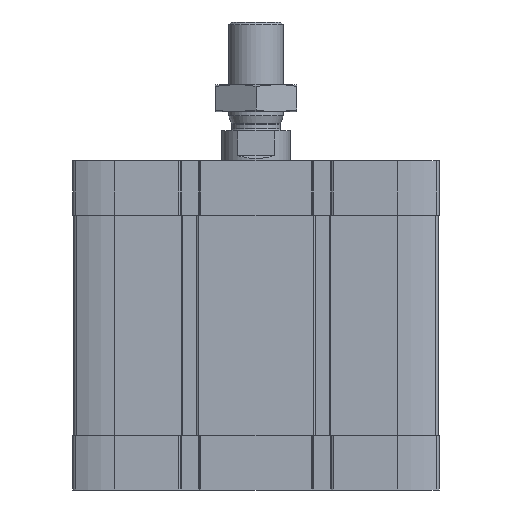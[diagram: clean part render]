
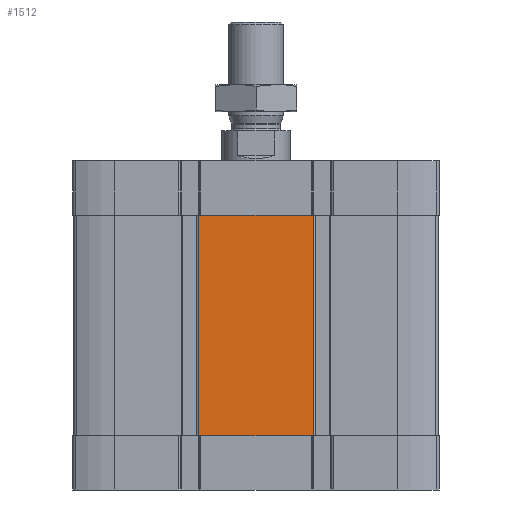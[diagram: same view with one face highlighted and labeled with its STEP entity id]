
A CAD part, front view. The second image highlights one B-rep face of the part: STEP entity #1512.
In plain terms, the highlighted planar face has unit normal (0, -1, 0).
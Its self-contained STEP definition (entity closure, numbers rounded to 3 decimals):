
#103 = CARTESIAN_POINT ( 'NONE',  ( -20.687, -67., -20. ) ) ;
#538 = VECTOR ( 'NONE', #7262, 1000. ) ;
#707 = CARTESIAN_POINT ( 'NONE',  ( 21.3, -67., -101. ) ) ;
#709 = ORIENTED_EDGE ( 'NONE', *, *, #17708, .T. ) ;
#768 = AXIS2_PLACEMENT_3D ( 'NONE', #15233, #12665, #4223 ) ;
#1115 = CARTESIAN_POINT ( 'NONE',  ( -20.687, -67., -101. ) ) ;
#1287 = VECTOR ( 'NONE', #1742, 1000. ) ;
#1468 = LINE ( 'NONE', #11383, #1287 ) ;
#1512 = ADVANCED_FACE ( 'NONE', ( #12842 ), #9634, .T. ) ;
#1742 = DIRECTION ( 'NONE',  ( 1., 0., 0. ) ) ;
#2055 = CARTESIAN_POINT ( 'NONE',  ( -21.3, -67., -101. ) ) ;
#2488 = CARTESIAN_POINT ( 'NONE',  ( -67., -67., -20. ) ) ;
#2772 = ORIENTED_EDGE ( 'NONE', *, *, #17550, .T. ) ;
#3118 = CARTESIAN_POINT ( 'NONE',  ( 20.687, -67., -101. ) ) ;
#3500 = EDGE_CURVE ( 'NONE', #10305, #7071, #8973, .T. ) ;
#3550 = DIRECTION ( 'NONE',  ( 1., 0., 0. ) ) ;
#3680 = VERTEX_POINT ( 'NONE', #17690 ) ;
#3724 = CARTESIAN_POINT ( 'NONE',  ( -21.3, -67., -20. ) ) ;
#4016 = DIRECTION ( 'NONE',  ( 1., 0., 0. ) ) ;
#4223 = DIRECTION ( 'NONE',  ( 0., 0., -1. ) ) ;
#4638 = VERTEX_POINT ( 'NONE', #707 ) ;
#4930 = CARTESIAN_POINT ( 'NONE',  ( -67., -67., -101. ) ) ;
#5342 = DIRECTION ( 'NONE',  ( 1., 0., 0. ) ) ;
#5495 = VECTOR ( 'NONE', #16801, 1000. ) ;
#5694 = CARTESIAN_POINT ( 'NONE',  ( 21.3, -67., -101. ) ) ;
#6523 = LINE ( 'NONE', #12377, #12255 ) ;
#7071 = VERTEX_POINT ( 'NONE', #1115 ) ;
#7262 = DIRECTION ( 'NONE',  ( 1., 0., 0. ) ) ;
#7903 = CARTESIAN_POINT ( 'NONE',  ( -67., -67., -101. ) ) ;
#8196 = VECTOR ( 'NONE', #5342, 1000. ) ;
#8225 = VECTOR ( 'NONE', #3550, 1000. ) ;
#8243 = LINE ( 'NONE', #9797, #13405 ) ;
#8973 = LINE ( 'NONE', #4930, #8225 ) ;
#9190 = LINE ( 'NONE', #7903, #10183 ) ;
#9278 = DIRECTION ( 'NONE',  ( 1., 0., 0. ) ) ;
#9634 = PLANE ( 'NONE',  #768 ) ;
#9797 = CARTESIAN_POINT ( 'NONE',  ( -67., -67., -20. ) ) ;
#10183 = VECTOR ( 'NONE', #9278, 1000. ) ;
#10305 = VERTEX_POINT ( 'NONE', #2055 ) ;
#10922 = VERTEX_POINT ( 'NONE', #103 ) ;
#11107 = LINE ( 'NONE', #5694, #5495 ) ;
#11140 = ORIENTED_EDGE ( 'NONE', *, *, #12050, .F. ) ;
#11383 = CARTESIAN_POINT ( 'NONE',  ( -21.3, -67., -20. ) ) ;
#11609 = CARTESIAN_POINT ( 'NONE',  ( 20.687, -67., -20. ) ) ;
#11779 = EDGE_CURVE ( 'NONE', #7071, #14863, #13972, .T. ) ;
#12050 = EDGE_CURVE ( 'NONE', #10305, #14791, #6523, .T. ) ;
#12255 = VECTOR ( 'NONE', #13672, 1000. ) ;
#12318 = LINE ( 'NONE', #2488, #8196 ) ;
#12377 = CARTESIAN_POINT ( 'NONE',  ( -21.3, -67., -101. ) ) ;
#12665 = DIRECTION ( 'NONE',  ( 0., -1., 0. ) ) ;
#12707 = ORIENTED_EDGE ( 'NONE', *, *, #13327, .F. ) ;
#12842 = FACE_OUTER_BOUND ( 'NONE', #13618, .T. ) ;
#13327 = EDGE_CURVE ( 'NONE', #15072, #3680, #12318, .T. ) ;
#13405 = VECTOR ( 'NONE', #4016, 1000. ) ;
#13618 = EDGE_LOOP ( 'NONE', ( #11140, #17019, #14838, #2772, #709, #12707, #18089, #14635 ) ) ;
#13672 = DIRECTION ( 'NONE',  ( 0., 0., 1. ) ) ;
#13881 = CARTESIAN_POINT ( 'NONE',  ( -21.3, -67., -101. ) ) ;
#13972 = LINE ( 'NONE', #13881, #538 ) ;
#14635 = ORIENTED_EDGE ( 'NONE', *, *, #17157, .F. ) ;
#14791 = VERTEX_POINT ( 'NONE', #3724 ) ;
#14838 = ORIENTED_EDGE ( 'NONE', *, *, #11779, .T. ) ;
#14863 = VERTEX_POINT ( 'NONE', #3118 ) ;
#15072 = VERTEX_POINT ( 'NONE', #11609 ) ;
#15233 = CARTESIAN_POINT ( 'NONE',  ( -67., -67., -101. ) ) ;
#15901 = EDGE_CURVE ( 'NONE', #10922, #15072, #1468, .T. ) ;
#16801 = DIRECTION ( 'NONE',  ( 0., 0., 1. ) ) ;
#17019 = ORIENTED_EDGE ( 'NONE', *, *, #3500, .T. ) ;
#17157 = EDGE_CURVE ( 'NONE', #14791, #10922, #8243, .T. ) ;
#17550 = EDGE_CURVE ( 'NONE', #14863, #4638, #9190, .T. ) ;
#17690 = CARTESIAN_POINT ( 'NONE',  ( 21.3, -67., -20. ) ) ;
#17708 = EDGE_CURVE ( 'NONE', #4638, #3680, #11107, .T. ) ;
#18089 = ORIENTED_EDGE ( 'NONE', *, *, #15901, .F. ) ;
